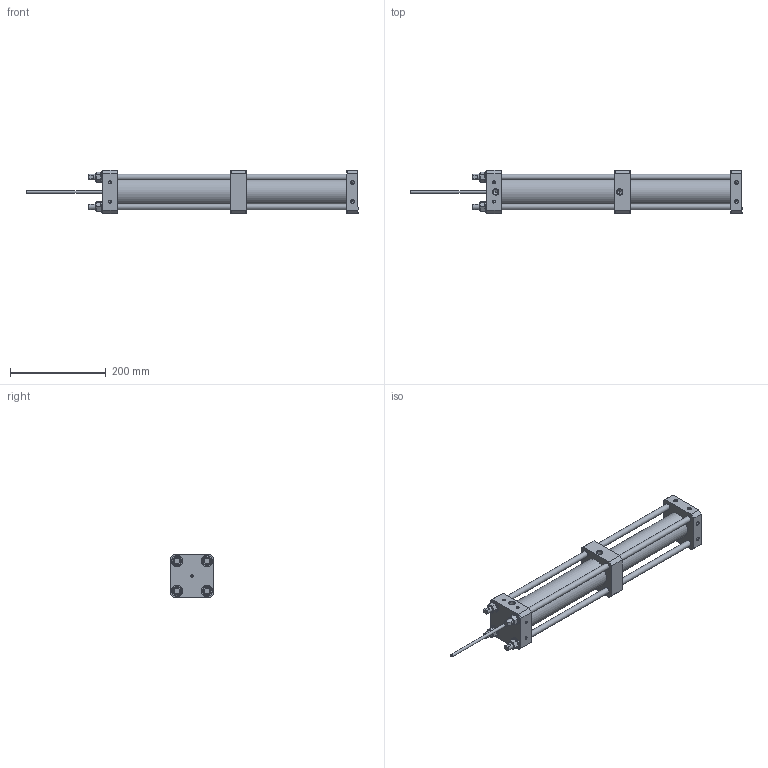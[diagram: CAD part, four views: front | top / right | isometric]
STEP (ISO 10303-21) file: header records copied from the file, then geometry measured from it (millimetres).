
FILE_DESCRIPTION(/* description */ (''),/* implementation_level */ '2;1');
FILE_NAME(/* name */ 'H13.4000.STP',/* time_stamp */ '2026-06-09T22:26:29+02:00',/* author */ ('janos'),/* organization */ (''),/* preprocessor_version */ 'ST-DEVELOPER v19.2',/* originating_system */ 'Autodesk Inventor 2024',/* authorisation */ '');
FILE_SCHEMA (('AUTOMOTIVE_DESIGN { 1 0 10303 214 3 1 1 }'));
Length unit declared in the file: millimetre
Products named in the file (1): HDÜ.4000.13.1_Vereinfachen_1
Bounding box: 692 x 90 x 90 mm (x, y, z)
Volume: 2056897.6 mm3; surface area: 240008.7 mm2
Topology: 1 solids, 1 shells, 223 faces, 562 edges, 357 vertices
Faces by surface type: cone 86, plane 81, cylinder 55, torus 1
Full cylindrical faces by diameter (mm): 4.917 x8, 5 x2, 6 x1, 6.647 x8, 11.445 x2, 12 x8, 13 x4, 14.376 x1, 24 x4, 45 x1, 54 x1, 60 x1
Entity records: 6908 total; most frequent: CARTESIAN_POINT 1410, DIRECTION 1105, ORIENTED_EDGE 1090, EDGE_CURVE 545, AXIS2_PLACEMENT_3D 444, VERTEX_POINT 357, EDGE_LOOP 276, STYLED_ITEM 224
